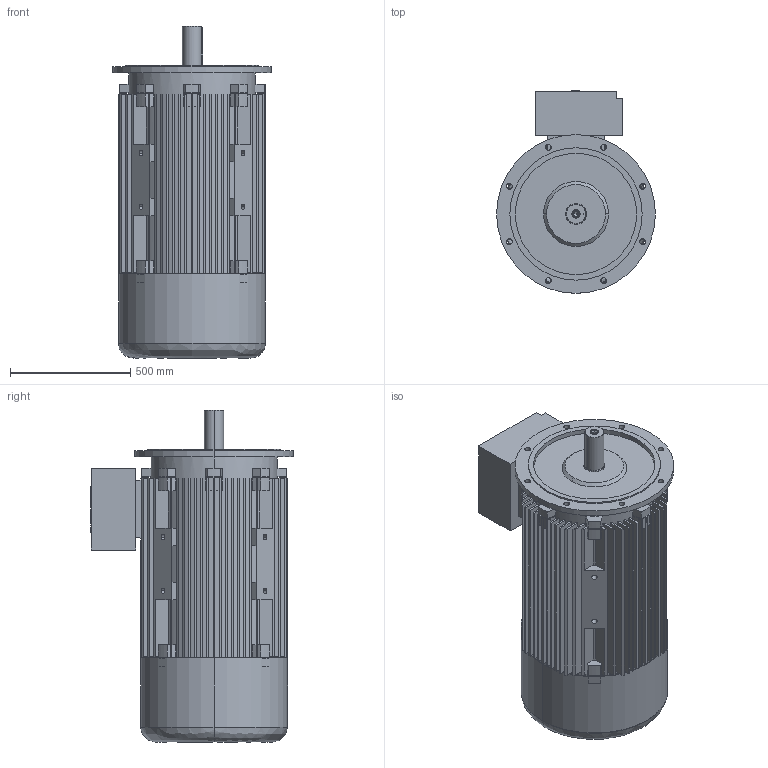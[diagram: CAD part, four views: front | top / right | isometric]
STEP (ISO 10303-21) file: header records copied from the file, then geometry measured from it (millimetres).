
FILE_DESCRIPTION (( 'STEP AP203' ), '1' );
FILE_NAME ('20.18436_B 7AT 315LX -4, -6, -8 B5 STANDK.STEP', '2018-04-27T07:11:29', ( '' ), ( '' ), 'SwSTEP 2.0', 'SolidWorks 2017', '' );
FILE_SCHEMA (( 'CONFIG_CONTROL_DESIGN' ));
Length unit declared in the file: millimetre
Products named in the file (1): 20.18436_B 7AT 315LX -4, -6, -8 B5 STANDK
Bounding box: 660 x 843 x 1380 mm (x, y, z)
Volume: 103327062.7 mm3; surface area: 11607130.9 mm2
Topology: 5 solids, 5 shells, 783 faces, 2095 edges, 1377 vertices
Faces by surface type: plane 610, cylinder 126, cone 34, bspline 13
Entity records: 25043 total; most frequent: CARTESIAN_POINT 5091, ORIENTED_EDGE 4154, DIRECTION 4079, EDGE_CURVE 2077, LINE 1549, VECTOR 1549, VERTEX_POINT 1377, AXIS2_PLACEMENT_3D 1265
